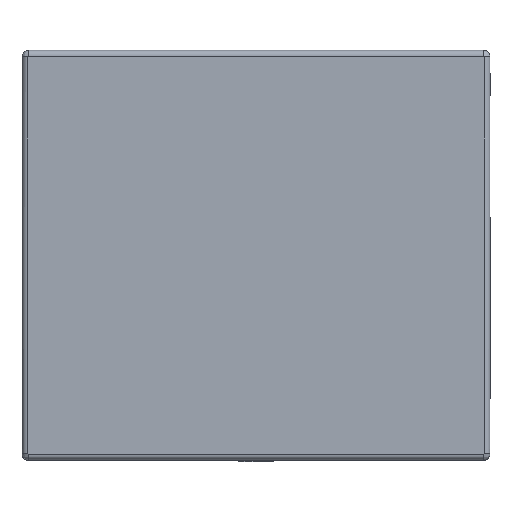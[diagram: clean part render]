
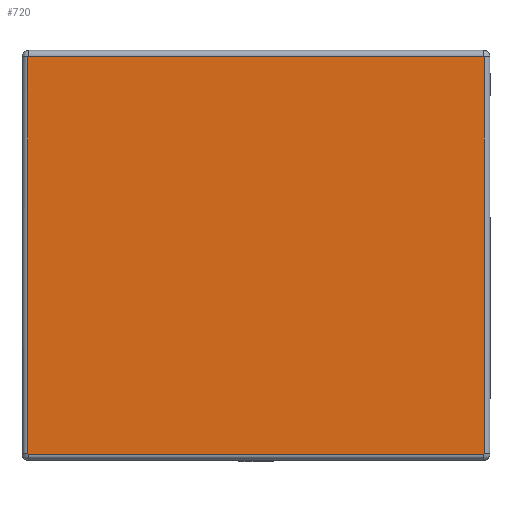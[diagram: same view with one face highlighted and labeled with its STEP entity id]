
A CAD part, top view. The second image highlights one B-rep face of the part: STEP entity #720.
In plain terms, the highlighted planar face has unit normal (0, 0, 1).
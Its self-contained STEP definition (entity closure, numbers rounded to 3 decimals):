
#71=B_SPLINE_CURVE_WITH_KNOTS('',1,(#4419,#4420),.UNSPECIFIED.,.F.,.F.,(2,
2),(0.,422.),.UNSPECIFIED.);
#72=B_SPLINE_CURVE_WITH_KNOTS('',1,(#4421,#4422),.UNSPECIFIED.,.F.,.F.,(2,
2),(0.,368.),.UNSPECIFIED.);
#73=B_SPLINE_CURVE_WITH_KNOTS('',1,(#4423,#4424),.UNSPECIFIED.,.F.,.F.,(2,
2),(0.,368.),.UNSPECIFIED.);
#74=B_SPLINE_CURVE_WITH_KNOTS('',1,(#4425,#4426),.UNSPECIFIED.,.F.,.F.,(2,
2),(0.,422.),.UNSPECIFIED.);
#720=ADVANCED_FACE('',(#840),#2946,.T.);
#840=FACE_OUTER_BOUND('',#960,.T.);
#960=EDGE_LOOP('',(#1259,#1260,#1261,#1262,#1263,#1264,#1265,#1266));
#1259=ORIENTED_EDGE('',*,*,#1796,.T.);
#1260=ORIENTED_EDGE('',*,*,#1790,.T.);
#1261=ORIENTED_EDGE('',*,*,#1793,.T.);
#1262=ORIENTED_EDGE('',*,*,#1792,.T.);
#1263=ORIENTED_EDGE('',*,*,#1794,.T.);
#1264=ORIENTED_EDGE('',*,*,#1791,.T.);
#1265=ORIENTED_EDGE('',*,*,#1795,.T.);
#1266=ORIENTED_EDGE('',*,*,#1789,.T.);
#1789=EDGE_CURVE('',#2623,#2621,#71,.T.);
#1790=EDGE_CURVE('',#2622,#2627,#72,.T.);
#1791=EDGE_CURVE('',#2625,#2626,#73,.T.);
#1792=EDGE_CURVE('',#2628,#2624,#74,.T.);
#1793=EDGE_CURVE('',#2627,#2628,#2286,.T.);
#1794=EDGE_CURVE('',#2624,#2625,#2287,.T.);
#1795=EDGE_CURVE('',#2626,#2623,#2288,.T.);
#1796=EDGE_CURVE('',#2621,#2622,#2289,.T.);
#2286=(
BOUNDED_CURVE()
B_SPLINE_CURVE(3,(#4427,#4428,#4429,#4430,#4431),.UNSPECIFIED.,.F.,.F.)
B_SPLINE_CURVE_WITH_KNOTS((4,1,4),(0.,0.393,
0.785),.UNSPECIFIED.)
CURVE()
GEOMETRIC_REPRESENTATION_ITEM()
RATIONAL_B_SPLINE_CURVE((1.,1.,1.,1.,1.))
REPRESENTATION_ITEM('')
);
#2287=(
BOUNDED_CURVE()
B_SPLINE_CURVE(3,(#4432,#4433,#4434,#4435,#4436),.UNSPECIFIED.,.F.,.F.)
B_SPLINE_CURVE_WITH_KNOTS((4,1,4),(0.,0.393,0.785),
 .UNSPECIFIED.)
CURVE()
GEOMETRIC_REPRESENTATION_ITEM()
RATIONAL_B_SPLINE_CURVE((1.,1.,1.,1.,1.))
REPRESENTATION_ITEM('')
);
#2288=(
BOUNDED_CURVE()
B_SPLINE_CURVE(3,(#4437,#4438,#4439,#4440,#4441),.UNSPECIFIED.,.F.,.F.)
B_SPLINE_CURVE_WITH_KNOTS((4,1,4),(0.,0.393,0.785),
 .UNSPECIFIED.)
CURVE()
GEOMETRIC_REPRESENTATION_ITEM()
RATIONAL_B_SPLINE_CURVE((1.,1.,1.,1.,1.))
REPRESENTATION_ITEM('')
);
#2289=(
BOUNDED_CURVE()
B_SPLINE_CURVE(3,(#4442,#4443,#4444,#4445,#4446),.UNSPECIFIED.,.F.,.F.)
B_SPLINE_CURVE_WITH_KNOTS((4,1,4),(0.,0.393,0.785),
 .UNSPECIFIED.)
CURVE()
GEOMETRIC_REPRESENTATION_ITEM()
RATIONAL_B_SPLINE_CURVE((1.,1.,1.,1.,1.))
REPRESENTATION_ITEM('')
);
#2621=VERTEX_POINT('',#4411);
#2622=VERTEX_POINT('',#4412);
#2623=VERTEX_POINT('',#4413);
#2624=VERTEX_POINT('',#4414);
#2625=VERTEX_POINT('',#4415);
#2626=VERTEX_POINT('',#4416);
#2627=VERTEX_POINT('',#4417);
#2628=VERTEX_POINT('',#4418);
#2946=PLANE('',#2996);
#2996=AXIS2_PLACEMENT_3D('',#4410,#3029,$);
#3029=DIRECTION('',(0.,0.,1.));
#4410=CARTESIAN_POINT('',(-271.252,-236.851,124.));
#4411=CARTESIAN_POINT('',(-211.002,185.149,124.));
#4412=CARTESIAN_POINT('',(-211.502,184.649,124.));
#4413=CARTESIAN_POINT('',(210.998,185.149,124.));
#4414=CARTESIAN_POINT('',(210.998,-183.851,124.));
#4415=CARTESIAN_POINT('',(211.498,-183.351,124.));
#4416=CARTESIAN_POINT('',(211.498,184.649,124.));
#4417=CARTESIAN_POINT('',(-211.502,-183.351,124.));
#4418=CARTESIAN_POINT('',(-211.002,-183.851,124.));
#4419=CARTESIAN_POINT('',(210.998,185.149,124.));
#4420=CARTESIAN_POINT('',(-211.002,185.149,124.));
#4421=CARTESIAN_POINT('',(-211.502,184.649,124.));
#4422=CARTESIAN_POINT('',(-211.502,-183.351,124.));
#4423=CARTESIAN_POINT('',(211.498,-183.351,124.));
#4424=CARTESIAN_POINT('',(211.498,184.649,124.));
#4425=CARTESIAN_POINT('',(-211.002,-183.851,124.));
#4426=CARTESIAN_POINT('',(210.998,-183.851,124.));
#4427=CARTESIAN_POINT('',(-211.502,-183.351,124.));
#4428=CARTESIAN_POINT('',(-211.502,-183.482,124.));
#4429=CARTESIAN_POINT('',(-211.393,-183.742,124.));
#4430=CARTESIAN_POINT('',(-211.133,-183.852,124.));
#4431=CARTESIAN_POINT('',(-211.002,-183.851,124.));
#4432=CARTESIAN_POINT('',(210.998,-183.851,124.));
#4433=CARTESIAN_POINT('',(211.129,-183.852,124.));
#4434=CARTESIAN_POINT('',(211.39,-183.742,124.));
#4435=CARTESIAN_POINT('',(211.499,-183.482,124.));
#4436=CARTESIAN_POINT('',(211.498,-183.351,124.));
#4437=CARTESIAN_POINT('',(211.498,184.649,124.));
#4438=CARTESIAN_POINT('',(211.499,184.78,124.));
#4439=CARTESIAN_POINT('',(211.39,185.041,124.));
#4440=CARTESIAN_POINT('',(211.129,185.15,124.));
#4441=CARTESIAN_POINT('',(210.998,185.149,124.));
#4442=CARTESIAN_POINT('',(-211.002,185.149,124.));
#4443=CARTESIAN_POINT('',(-211.133,185.15,124.));
#4444=CARTESIAN_POINT('',(-211.393,185.041,124.));
#4445=CARTESIAN_POINT('',(-211.502,184.78,124.));
#4446=CARTESIAN_POINT('',(-211.502,184.649,124.));
